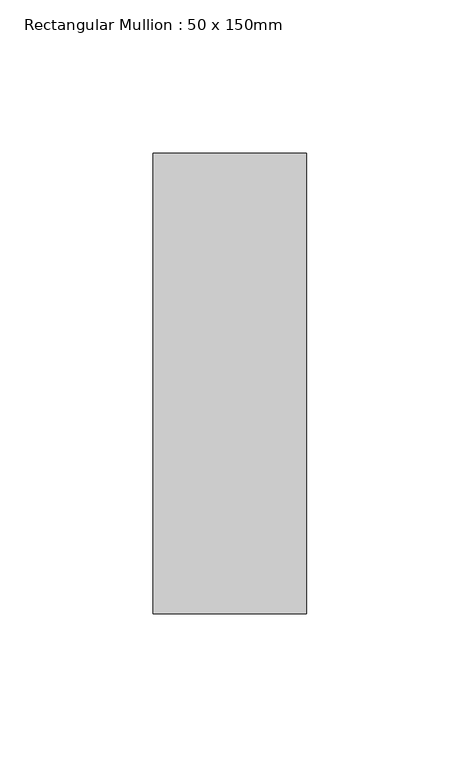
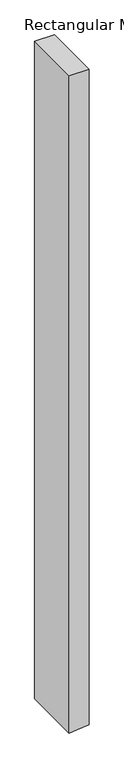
"""IFC4 building model written with IfcOpenShell, lengths in millimetres: member geometry, Rectangular Mullion : 50 x 150mm."""

import ifcopenshell
import ifcopenshell.guid

model = None  # the IFC model being written
_history = None  # IfcOwnerHistory: only IFC2X3 demands one
_inside = {}  # id of a spatial element -> (the spatial element, [elements in it])
_under = {}  # id of a project, library or spatial element -> (it, [spatial elements below it])
_declared = {}  # id of a project -> (the project, [libraries it declares])
_typed = {}  # id of a type object -> (the type object, [elements of that type])
_made_of = {}  # id of a material, layer set ... -> (it, [elements and type objects made of it])


def new_model(schema):
    """Start an empty IFC model of exactly this schema.

    Asked for "IFC4X3", IfcOpenShell would pick the latest addendum, in which some entities
    have other attributes; the version numbers below select the first issue.
    IFC2X3 requires an IfcOwnerHistory on every rooted entity: one is made here for all.
    """
    global model, _history
    if schema == "IFC4X3":
        model = ifcopenshell.file(schema_version=(4, 3, 0, 0))
    else:
        model = ifcopenshell.file(schema=schema)
    _inside.clear()
    _under.clear()
    _declared.clear()
    _typed.clear()
    _made_of.clear()
    _history = None
    if model.schema == "IFC2X3":
        org = make("IfcOrganization", Name="unknown")
        user = make(
            "IfcPersonAndOrganization",
            ThePerson=make("IfcPerson", FamilyName="unknown"),
            TheOrganization=org,
        )
        app = make(
            "IfcApplication",
            ApplicationDeveloper=org,
            Version="unknown",
            ApplicationFullName="unknown",
            ApplicationIdentifier="unknown",
        )
        _history = make(
            "IfcOwnerHistory",
            OwningUser=user,
            OwningApplication=app,
            ChangeAction="ADDED",
            CreationDate=0,
        )
    return model


def make(cls, **values):
    """One entity of the class cls with the attributes given. An attribute that is None is left unset."""
    return model.create_entity(
        cls, **{name: value for name, value in values.items() if value is not None}
    )


def rooted(cls, **values):
    """An entity with a GlobalId (a new one), such as an element, a storey or a relation."""
    return make(cls, GlobalId=ifcopenshell.guid.new(), OwnerHistory=_history, **values)


def si_unit(unit_type, name, prefix=None):
    """IfcSIUnit, for example si_unit("LENGTHUNIT", "METRE", prefix="MILLI")."""
    return make("IfcSIUnit", UnitType=unit_type, Prefix=prefix, Name=name)


def assignment(units):
    """IfcUnitAssignment: the units of a project."""
    return None if units is None else make("IfcUnitAssignment", Units=units)


def point(xyz):
    """IfcCartesianPoint."""
    return None if xyz is None else make("IfcCartesianPoint", Coordinates=xyz)


def direction(xyz):
    """IfcDirection."""
    return None if xyz is None else make("IfcDirection", DirectionRatios=xyz)


def frame(location, z_axis=None, x_axis=None):
    """IfcAxis2Placement3D, a coordinate frame: its origin and axes. An axis left out is left unset."""
    return make(
        "IfcAxis2Placement3D",
        Location=point(location),
        Axis=direction(z_axis),
        RefDirection=direction(x_axis),
    )


def frame_2d(location, x_axis=None):
    """IfcAxis2Placement2D, a coordinate frame in the plane: its origin and x axis."""
    return make(
        "IfcAxis2Placement2D", Location=point(location), RefDirection=direction(x_axis)
    )


def origin():
    """The frame at (0, 0, 0) with its axes left unset."""
    return frame((0.0, 0.0, 0.0))


def place(relative_to, where):
    """IfcLocalPlacement: puts the frame where relative to a parent placement (None: the world)."""
    return make(
        "IfcLocalPlacement", PlacementRelTo=relative_to, RelativePlacement=where
    )


def context(
    kind, dimensions, precision=None, world=None, true_north=None, identifier=None
):
    """IfcGeometricRepresentationContext, for example the 3D "Model" context."""
    return make(
        "IfcGeometricRepresentationContext",
        ContextIdentifier=identifier,
        ContextType=kind,
        CoordinateSpaceDimension=dimensions,
        Precision=precision,
        WorldCoordinateSystem=world,
        TrueNorth=true_north,
    )


def project(units=None, contexts=None):
    """IfcProject with its units and contexts."""
    return rooted(
        "IfcProject",
        Name="project",
        RepresentationContexts=contexts,
        UnitsInContext=assignment(units),
    )


def spatial(cls, under=None, at=None, **own):
    """A site, building, storey or space (cls), placed at a placement, below another one or the project."""
    s = rooted(cls, ObjectPlacement=at, **own)
    if under is not None:
        _under.setdefault(under.id(), (under, []))[1].append(s)
    return s


def polyline(points):
    """IfcPolyline through the points."""
    return make("IfcPolyline", Points=[point(p) for p in points])


def circle_curve(where, radius):
    """IfcCircle in the frame where."""
    return make("IfcCircle", Position=where, Radius=radius)


def trimmed(basis, trim1, trim2, sense, master):
    """IfcTrimmedCurve: the piece of a basis curve between two trims."""
    return make(
        "IfcTrimmedCurve",
        BasisCurve=basis,
        Trim1=trim1,
        Trim2=trim2,
        SenseAgreement=sense,
        MasterRepresentation=master,
    )


def segment(curve, same_sense, transition):
    """IfcCompositeCurveSegment."""
    return make(
        "IfcCompositeCurveSegment",
        Transition=transition,
        SameSense=same_sense,
        ParentCurve=curve,
    )


def composite_curve(segments, self_intersect=None):
    """IfcCompositeCurve: segments joined end to end."""
    return make("IfcCompositeCurve", Segments=segments, SelfIntersect=self_intersect)


def outline(outer, holes=None, kind="AREA"):
    """IfcArbitraryClosedProfileDef: a profile drawn as a closed curve; with holes, ...WithVoids."""
    if holes is None:
        return make("IfcArbitraryClosedProfileDef", ProfileType=kind, OuterCurve=outer)
    return make(
        "IfcArbitraryProfileDefWithVoids",
        ProfileType=kind,
        OuterCurve=outer,
        InnerCurves=holes,
    )


def extrude(swept, where, along, depth):
    """IfcExtrudedAreaSolid: the profile swept, set in the frame where, extruded along a direction by depth."""
    return make(
        "IfcExtrudedAreaSolid",
        SweptArea=swept,
        Position=where,
        ExtrudedDirection=direction(along),
        Depth=depth,
    )


def shape(context_of_items, identifier, shape_type, items):
    """IfcShapeRepresentation: the items that make up one representation, for example the "Body"."""
    return make(
        "IfcShapeRepresentation",
        ContextOfItems=context_of_items,
        RepresentationIdentifier=identifier,
        RepresentationType=shape_type,
        Items=items,
    )


def source(mapping_origin, context_of_items, identifier, shape_type, items):
    """IfcRepresentationMap: a shape defined once, which mapped items show again and again."""
    return make(
        "IfcRepresentationMap",
        MappingOrigin=mapping_origin,
        MappedRepresentation=shape(context_of_items, identifier, shape_type, items),
    )


def transform(
    local_origin,
    x_axis=None,
    y_axis=None,
    z_axis=None,
    scale=None,
    scale2=None,
    scale3=None,
    uniform=True,
):
    """IfcCartesianTransformationOperator3D, or its non-uniform kind. x_axis, y_axis, z_axis: its Axis1, 2, 3."""
    if uniform:
        return make(
            "IfcCartesianTransformationOperator3D",
            Axis1=direction(x_axis),
            Axis2=direction(y_axis),
            LocalOrigin=point(local_origin),
            Scale=scale,
            Axis3=direction(z_axis),
        )
    return make(
        "IfcCartesianTransformationOperator3DnonUniform",
        Axis1=direction(x_axis),
        Axis2=direction(y_axis),
        LocalOrigin=point(local_origin),
        Scale=scale,
        Axis3=direction(z_axis),
        Scale2=scale2,
        Scale3=scale3,
    )


def mapped(mapping_source, mapping_target):
    """IfcMappedItem: shows the shape of a source again, moved by a transform."""
    return make(
        "IfcMappedItem", MappingSource=mapping_source, MappingTarget=mapping_target
    )


def made_of(thing, what):
    """Note that an element or type object is made of a material, layer set ...; save() writes the relation."""
    if what is not None:
        _made_of.setdefault(what.id(), (what, []))[1].append(thing)
    return thing


def element(
    cls,
    number,
    at=None,
    inside=None,
    cuts=None,
    type_object=None,
    material=None,
    context=None,
    identifier="Body",
    shape_type=None,
    held_by="IfcProductDefinitionShape",
    body=None,
    shapes=None,
    **own,
):
    """One element of the class cls, such as IfcWall. Its Tag is "e" and its number.

    at: its placement. inside: the storey or other place that contains it. cuts: it is an
    opening in that element (IfcRelVoidsElement). A single representation is given by context,
    identifier, shape_type and body (its items); several are given by shapes. held_by: the class
    of the entity that holds the representations. save() writes the other relations.
    """
    e = rooted(cls, Tag="e%d" % number, ObjectPlacement=at, **own)
    if body is not None:
        shapes = [shape(context, identifier, shape_type, body)]
    if shapes is not None:
        e.Representation = make(held_by, Representations=shapes)
    if inside is not None:
        _inside.setdefault(inside.id(), (inside, []))[1].append(e)
    if cuts is not None:
        rooted(
            "IfcRelVoidsElement", RelatingBuildingElement=cuts, RelatedOpeningElement=e
        )
    if type_object is not None:
        _typed.setdefault(type_object.id(), (type_object, []))[1].append(e)
    return made_of(e, material)


def aggregate(whole, parts):
    """IfcRelAggregates: a whole, such as a stair, and the parts it consists of."""
    return rooted("IfcRelAggregates", RelatingObject=whole, RelatedObjects=parts)


def save(model, path):
    """Write the relations noted so far, then the file.

    IfcRelAggregates (storeys below a building ...), IfcRelContainedInSpatialStructure (elements
    in a storey), IfcRelDefinesByType, IfcRelAssociatesMaterial and IfcRelDeclares: one each for
    every whole, place, type object, material and project.
    """
    for whole, parts in _under.values():
        aggregate(whole, parts)
    for where, things in _inside.values():
        rooted(
            "IfcRelContainedInSpatialStructure",
            RelatedElements=things,
            RelatingStructure=where,
        )
    for kind, things in _typed.values():
        rooted("IfcRelDefinesByType", RelatedObjects=things, RelatingType=kind)
    for what, things in _made_of.values():
        rooted("IfcRelAssociatesMaterial", RelatedObjects=things, RelatingMaterial=what)
    for by, libraries in _declared.values():
        rooted("IfcRelDeclares", RelatingContext=by, RelatedDefinitions=libraries)
    model.write(path)


def rectangular_mullion_50_x_150mm_e3881e6b(model_context):
    return source(origin(), model_context, "Body", "SweptSolid", [
        extrude(outline(composite_curve([segment(polyline([(0.0, 25.0), (0.0, -25.0), (-1746.7999748, -25.0)]), True, "CONTINUOUS"), segment(trimmed(circle_curve(frame_2d((4001.3064524, -600.0)), 5776.7943099), [point((-1746.7999748, -25.0))], [point((-1744.7795482, -5.1486131))], False, "CARTESIAN"), True, "CONTINUOUS"), segment(trimmed(circle_curve(frame_2d((4001.3064524, -600.0)), 5776.7943099), [point((-1744.7795482, -5.1486131))], [point((-1741.5784932, 25.0))], False, "CARTESIAN"), True, "CONTINUOUS"), segment(polyline([(-1741.5784932, 25.0), (0.0, 25.0)]), True, "CONTINUOUS")], self_intersect=False)), frame((0.0, -75.0, 0.0), z_axis=(0.0, 1.0, 0.0), x_axis=(0.0, 0.0, 1.0)), (0.0, 0.0, 1.0), 150.0),
    ])


if __name__ == "__main__":
    model = new_model("IFC4")
    model_context = context("Model", 3, world=origin())
    ifc_project = project(units=[si_unit("LENGTHUNIT", "METRE", prefix="MILLI")], contexts=[model_context])
    site = spatial("IfcSite", under=ifc_project)
    building = spatial("IfcBuilding", under=site)
    placement = place(None, origin())
    rectangular_mullion_50_x_150mm_shape = rectangular_mullion_50_x_150mm_e3881e6b(model_context)
    element("IfcMember", 1, ObjectType="Rectangular Mullion : 50 x 150mm", at=placement, inside=building, context=model_context, shape_type="MappedRepresentation", body=[
        mapped(rectangular_mullion_50_x_150mm_shape, transform((0.0, 0.0, 0.0), x_axis=(1.0, 0.0, 0.0), y_axis=(0.0, 1.0, 0.0), z_axis=(0.0, 0.0, 1.0))),
    ])
    save(model, "model.ifc")
